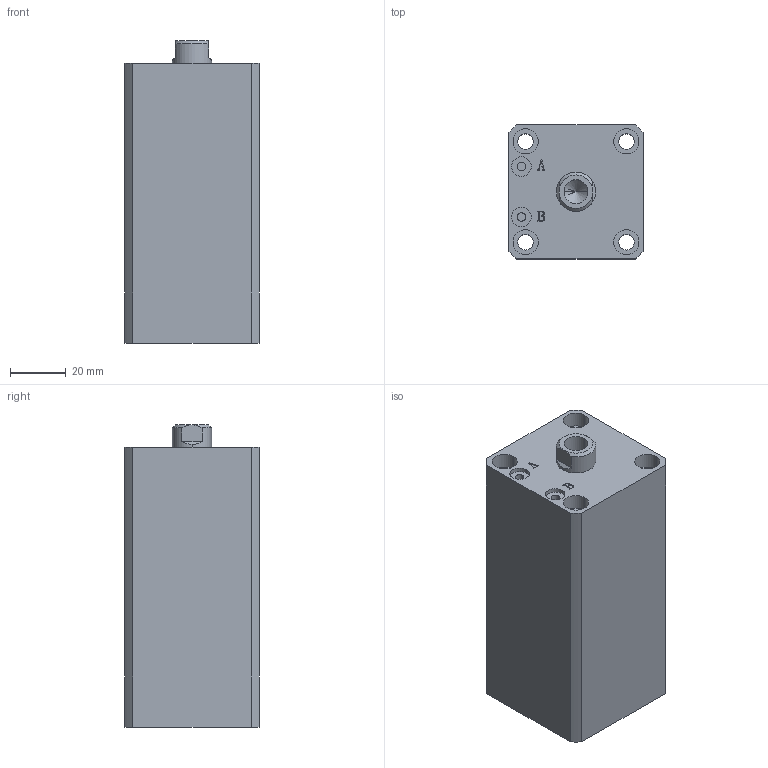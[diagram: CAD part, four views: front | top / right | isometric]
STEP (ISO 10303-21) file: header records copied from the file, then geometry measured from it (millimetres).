
FILE_DESCRIPTION (( 'STEP AP203' ), '1' );
FILE_NAME ('HTB-SDMA25-55N.STEP', '2019-10-07T10:55:21', ( '微软用户' ), ( '微软中国' ), 'SwSTEP 2.0', 'SolidWorks 2012', '' );
FILE_SCHEMA (( 'CONFIG_CONTROL_DESIGN' ));
Length unit declared in the file: millimetre
Products named in the file (3): HTB-SDMA25-55N; HTB-SDMA25-55N活塞杆; HTB-SDMA25-55掛极
Assembly tree (2 placements, depth 2):
  HTB-SDMA25-55N
    HTB-SDMA25-55掛极
    HTB-SDMA25-55N活塞杆
Bounding box: 48 x 48 x 108 mm (x, y, z)
Volume: 198581.6 mm3; surface area: 44199.2 mm2
Topology: 2 solids, 2 shells, 137 faces, 329 edges, 215 vertices
Faces by surface type: plane 65, cylinder 46, bspline 16, torus 6, cone 4
Entity records: 5072 total; most frequent: CARTESIAN_POINT 1592, ORIENTED_EDGE 654, DIRECTION 645, EDGE_CURVE 327, AXIS2_PLACEMENT_3D 232, VERTEX_POINT 215, LINE 181, VECTOR 181
